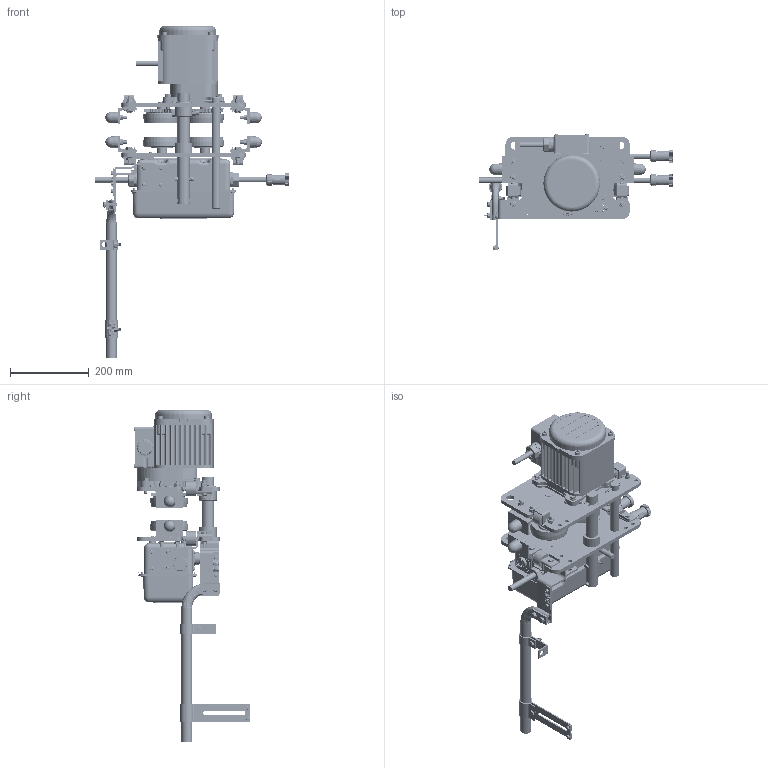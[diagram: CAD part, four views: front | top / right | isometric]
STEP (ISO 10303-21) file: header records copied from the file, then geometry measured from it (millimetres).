
FILE_DESCRIPTION (( 'STEP AP214' ), '1' );
FILE_NAME ('MR2003SD.STEP', '2026-08-10T13:26:48', ( '' ), ( '' ), 'SwSTEP 2.0', 'SolidWorks 2026', '' );
FILE_SCHEMA (( 'AUTOMOTIVE_DESIGN' ));
Length unit declared in the file: inch
Products named in the file (85): MR1DS9493; 9047242_9047242; MS554010; MR1DS1301; ECP5924AH; split pin (metric) as_9009414-5; 70131XX_7013101; 9047115_9047115; ECP5924AC1; MR1DS9481; MS104010; M6FE010S9114; M6SE010S9101; MR1DS9421; MR1DS93112; ECP6914AA; 9012711_9012711; MR1DS5201; ECP6916AA; MS527010; MR1DS9325; MR1DS1481; 9009432_9009432; ECP2108AC; MR1DS1211; ECP5924AA1; 16-6 (MR2); ECP5924AB1; MR1DS9491; 9012513; MR2SHM10S9A8; MR1DS9324; MR1DS9201; ECP6912AA; E6F630010S; ECP5924AD1; MR1DS9248; T6G156020; MS006010; MR2DI1768_DEFAULT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
Assembly tree (214 placements, depth 5):
  MR2003SD
    MR1DS5201
      MR1DS9201
      MR1DS9203  x2
      M6FE010S9113
    MR1DS5202
      MR1DS9202
      MR1DS9203  x2
      M6FE010S9114
    MSF115010_MSF115010
    MR1DS9634  x4
    9093330_9093330  x16
    9012711_9012711  x20
    9093424_9093424  x16
    MR1DS9631  x4
    MS006010  x4
    MR1DS1211_Reversed  x2
      MR1DS1211
      MR1DS9218
    MR1DS1211  x2
      MR1DS1211
      MR1DS9218
    MS1101010  x2
      M6SE010S9101
      6302Z BEARING
      9047242_9047242
    MS1102010  x2
      M6SE010S9102
      6302Z BEARING
      9047242_9047242
    MR1DS9131_MR1DS9131
    9009446_9009446  x2
    MS161010
    T6G156020
    9009432_9009432
    hexagon slotted nut low_1 small_jis_T3P154020
    split pin (metric) as_9009414-5
    9047115_9047115  x4
    MS104010  x4
    6077801
      MR1DS93112
      MR1DS9324
      MR1DS9325
      MR1DS1301
      90912134  x4
      MS554010  x4
    9012513  x4
    MR1DS9248
    70131XX_7013101
      MR1DS9411
      MR1DS9401_1 - 8 TON & 10 L TON
      MR1DS9421
      MS554010  x12
      MR2DI2811
        ECP5924AH
        MS527010
        MR2DI1811
        ES558003  x4
      MS517010  x4
      MS551010  x4
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Bounding box: 489.64 x 294.68 x 842.13 mm (x, y, z)
Volume: 5586279.5 mm3; surface area: 1871569.1 mm2
Topology: 246 solids, 262 shells, 9603 faces, 25272 edges, 16500 vertices
Faces by surface type: plane 4598, cylinder 2759, cone 1350, torus 444, bspline 428, sphere 24
Entity records: 171557 total; most frequent: CARTESIAN_POINT 64836, ORIENTED_EDGE 21732, DIRECTION 20662, EDGE_CURVE 10868, AXIS2_PLACEMENT_3D 7596, VERTEX_POINT 7328, VECTOR 5470, LINE 5470
